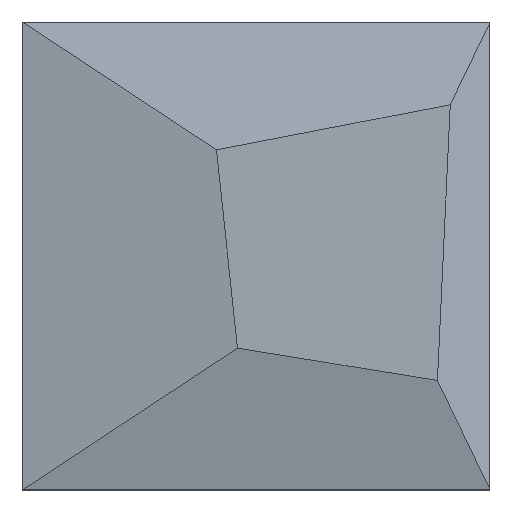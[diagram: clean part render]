
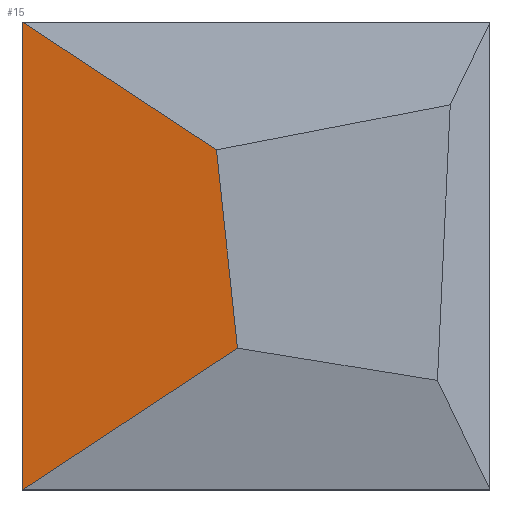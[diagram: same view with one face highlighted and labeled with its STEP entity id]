
A CAD part, top view. The second image highlights one B-rep face of the part: STEP entity #15.
In plain terms, the highlighted free-form (B-spline) face has degree [1, 1] with [2, 2] control points.
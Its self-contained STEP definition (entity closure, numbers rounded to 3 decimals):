
#15=ADVANCED_FACE('',(#25),#142,.T.);
#25=FACE_OUTER_BOUND('',#35,.T.);
#35=EDGE_LOOP('',(#45,#46,#47,#48));
#45=ORIENTED_EDGE('',*,*,#92,.T.);
#46=ORIENTED_EDGE('',*,*,#86,.T.);
#47=ORIENTED_EDGE('',*,*,#87,.T.);
#48=ORIENTED_EDGE('',*,*,#85,.F.);
#85=EDGE_CURVE('',#125,#126,#105,.T.);
#86=EDGE_CURVE('',#128,#127,#106,.T.);
#87=EDGE_CURVE('',#127,#126,#107,.T.);
#92=EDGE_CURVE('',#125,#128,#112,.T.);
#105=B_SPLINE_CURVE_WITH_KNOTS('',3,(#228,#229,#230,#231),.UNSPECIFIED.,
 .F.,.F.,(4,4),(60.677,167.223),.UNSPECIFIED.);
#106=B_SPLINE_CURVE_WITH_KNOTS('',1,(#232,#233),.UNSPECIFIED.,.F.,.F.,(2,
2),(301.177,405.24),.UNSPECIFIED.);
#107=B_SPLINE_CURVE_WITH_KNOTS('',1,(#234,#235),.UNSPECIFIED.,.F.,.F.,(2,
2),(0.,137.791),.UNSPECIFIED.);
#112=B_SPLINE_CURVE_WITH_KNOTS('',3,(#250,#251,#252,#253),.UNSPECIFIED.,
 .F.,.F.,(4,4),(23.247,148.297),.UNSPECIFIED.);
#125=VERTEX_POINT('',#216);
#126=VERTEX_POINT('',#217);
#127=VERTEX_POINT('',#218);
#128=VERTEX_POINT('',#219);
#142=B_SPLINE_SURFACE_WITH_KNOTS('',1,1,((#183,#184),(#185,#186)),
 .UNSPECIFIED.,.F.,.F.,.F.,(2,2),(2,2),(0.,147.431),(0.,530.687),
 .UNSPECIFIED.);
#183=CARTESIAN_POINT('',(0.,0.,14.));
#184=CARTESIAN_POINT('',(0.,530.687,14.));
#185=CARTESIAN_POINT('',(123.167,81.031,31.119));
#186=CARTESIAN_POINT('',(123.167,611.717,31.119));
#216=CARTESIAN_POINT('',(103.859,181.672,28.436));
#217=CARTESIAN_POINT('',(115.113,75.732,30.));
#218=CARTESIAN_POINT('',(0.,0.,14.));
#219=CARTESIAN_POINT('',(0.,250.,14.));
#228=CARTESIAN_POINT('',(103.859,181.672,28.436));
#229=CARTESIAN_POINT('',(107.61,146.359,28.957));
#230=CARTESIAN_POINT('',(111.361,111.045,29.479));
#231=CARTESIAN_POINT('',(115.113,75.732,30.));
#232=CARTESIAN_POINT('',(0.,250.,14.));
#233=CARTESIAN_POINT('',(0.,0.,14.));
#234=CARTESIAN_POINT('',(0.,0.,14.));
#235=CARTESIAN_POINT('',(115.113,75.732,30.));
#250=CARTESIAN_POINT('',(103.859,181.672,28.436));
#251=CARTESIAN_POINT('',(69.239,204.448,23.624));
#252=CARTESIAN_POINT('',(34.62,227.224,18.812));
#253=CARTESIAN_POINT('',(0.,250.,14.));
